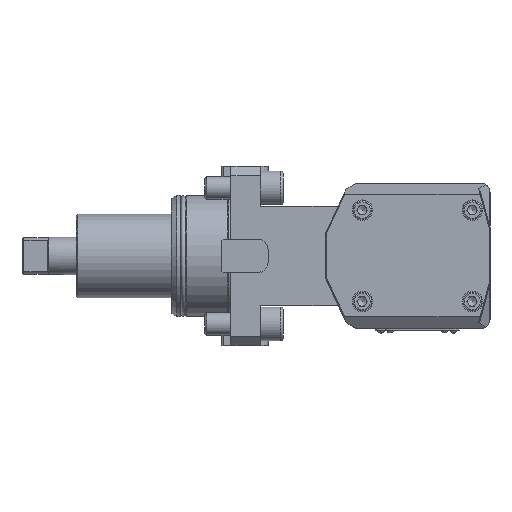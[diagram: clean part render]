
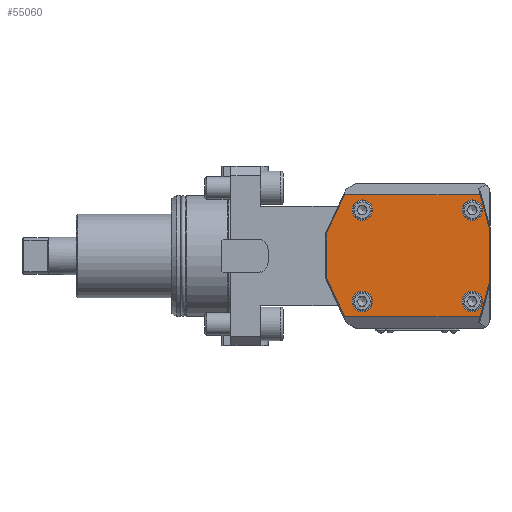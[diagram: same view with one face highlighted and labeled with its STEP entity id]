
A CAD part, top view. The second image highlights one B-rep face of the part: STEP entity #55060.
In plain terms, the highlighted planar face has unit normal (0, 0, 1).
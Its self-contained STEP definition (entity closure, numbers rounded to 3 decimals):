
#24205=VECTOR('',#37380,1.);
#24206=VECTOR('',#37381,1.);
#24207=VECTOR('',#37382,1.);
#24208=VECTOR('',#37383,1.);
#24209=VECTOR('',#37384,1.);
#24210=VECTOR('',#37385,1.);
#24211=VECTOR('',#37386,1.);
#24212=VECTOR('',#37387,1.);
#25415=LINE('',#41386,#24205);
#25416=LINE('',#41388,#24206);
#25417=LINE('',#41390,#24207);
#25418=LINE('',#41392,#24208);
#25419=LINE('',#41394,#24209);
#25420=LINE('',#41396,#24210);
#25421=LINE('',#41398,#24211);
#25422=LINE('',#41399,#24212);
#26625=PLANE('',#53442);
#27166=ORIENTED_EDGE('',*,*,#33112,.F.);
#27167=ORIENTED_EDGE('',*,*,#33113,.F.);
#27168=ORIENTED_EDGE('',*,*,#33114,.F.);
#27169=ORIENTED_EDGE('',*,*,#33115,.F.);
#27170=ORIENTED_EDGE('',*,*,#33116,.F.);
#27171=ORIENTED_EDGE('',*,*,#33117,.F.);
#27172=ORIENTED_EDGE('',*,*,#33118,.F.);
#27173=ORIENTED_EDGE('',*,*,#33119,.F.);
#27174=ORIENTED_EDGE('',*,*,#33110,.F.);
#27175=ORIENTED_EDGE('',*,*,#33120,.F.);
#27176=ORIENTED_EDGE('',*,*,#33121,.F.);
#27177=ORIENTED_EDGE('',*,*,#33122,.F.);
#31184=CIRCLE('',#53440,5.5);
#31186=CIRCLE('',#53443,5.5);
#31187=CIRCLE('',#53444,5.5);
#31188=CIRCLE('',#53445,5.5);
#31719=VERTEX_POINT('',#41379);
#31721=VERTEX_POINT('',#41384);
#31722=VERTEX_POINT('',#41385);
#31723=VERTEX_POINT('',#41387);
#31724=VERTEX_POINT('',#41389);
#31725=VERTEX_POINT('',#41391);
#31726=VERTEX_POINT('',#41393);
#31727=VERTEX_POINT('',#41395);
#31728=VERTEX_POINT('',#41397);
#31729=VERTEX_POINT('',#41400);
#31730=VERTEX_POINT('',#41402);
#31731=VERTEX_POINT('',#41404);
#33110=EDGE_CURVE('',#31719,#31719,#31184,.T.);
#33112=EDGE_CURVE('',#31721,#31722,#25415,.T.);
#33113=EDGE_CURVE('',#31723,#31721,#25416,.T.);
#33114=EDGE_CURVE('',#31724,#31723,#25417,.T.);
#33115=EDGE_CURVE('',#31725,#31724,#25418,.T.);
#33116=EDGE_CURVE('',#31726,#31725,#25419,.T.);
#33117=EDGE_CURVE('',#31727,#31726,#25420,.T.);
#33118=EDGE_CURVE('',#31728,#31727,#25421,.T.);
#33119=EDGE_CURVE('',#31722,#31728,#25422,.T.);
#33120=EDGE_CURVE('',#31729,#31729,#31186,.T.);
#33121=EDGE_CURVE('',#31730,#31730,#31187,.T.);
#33122=EDGE_CURVE('',#31731,#31731,#31188,.T.);
#35122=EDGE_LOOP('',(#27166,#27167,#27168,#27169,#27170,#27171,#27172,#27173));
#35123=EDGE_LOOP('',(#27174));
#35124=EDGE_LOOP('',(#27175));
#35125=EDGE_LOOP('',(#27176));
#35126=EDGE_LOOP('',(#27177));
#36241=FACE_BOUND('',#35122,.T.);
#36242=FACE_BOUND('',#35123,.T.);
#36243=FACE_BOUND('',#35124,.T.);
#36244=FACE_BOUND('',#35125,.T.);
#36245=FACE_BOUND('',#35126,.T.);
#37374=DIRECTION('',(0.,0.,1.));
#37375=DIRECTION('',(5.5,0.,0.));
#37378=DIRECTION('',(0.,0.,1.));
#37379=DIRECTION('',(0.,-1.,0.));
#37380=DIRECTION('',(72.709,0.,0.));
#37381=DIRECTION('',(9.524,20.425,0.));
#37382=DIRECTION('',(0.,24.599,0.));
#37383=DIRECTION('',(-9.524,20.425,0.));
#37384=DIRECTION('',(-72.709,0.,0.));
#37385=DIRECTION('',(-4.767,-17.79,0.));
#37386=DIRECTION('',(0.,-29.868,0.));
#37387=DIRECTION('',(4.767,-17.79,0.));
#37388=DIRECTION('',(0.,0.,1.));
#37389=DIRECTION('',(5.5,0.,0.));
#37390=DIRECTION('',(0.,0.,1.));
#37391=DIRECTION('',(5.5,0.,0.));
#37392=DIRECTION('',(0.,0.,1.));
#37393=DIRECTION('',(5.5,0.,0.));
#41379=CARTESIAN_POINT('',(450.812,-229.369,81.634));
#41380=CARTESIAN_POINT('',(445.312,-229.369,81.634));
#41383=CARTESIAN_POINT('',(454.812,-219.869,81.634));
#41384=CARTESIAN_POINT('',(376.836,-172.145,81.634));
#41385=CARTESIAN_POINT('',(449.545,-172.145,81.634));
#41386=CARTESIAN_POINT('',(376.836,-172.145,81.634));
#41387=CARTESIAN_POINT('',(367.312,-192.57,81.634));
#41388=CARTESIAN_POINT('',(367.312,-192.57,81.634));
#41389=CARTESIAN_POINT('',(367.312,-217.169,81.634));
#41390=CARTESIAN_POINT('',(367.312,-217.169,81.634));
#41391=CARTESIAN_POINT('',(376.836,-237.593,81.634));
#41392=CARTESIAN_POINT('',(376.836,-237.593,81.634));
#41393=CARTESIAN_POINT('',(449.545,-237.593,81.634));
#41394=CARTESIAN_POINT('',(449.545,-237.593,81.634));
#41395=CARTESIAN_POINT('',(454.312,-219.803,81.634));
#41396=CARTESIAN_POINT('',(454.312,-219.803,81.634));
#41397=CARTESIAN_POINT('',(454.312,-189.935,81.634));
#41398=CARTESIAN_POINT('',(454.312,-189.935,81.634));
#41399=CARTESIAN_POINT('',(449.545,-172.145,81.634));
#41400=CARTESIAN_POINT('',(450.812,-180.369,81.634));
#41401=CARTESIAN_POINT('',(445.312,-180.369,81.634));
#41402=CARTESIAN_POINT('',(391.812,-229.369,81.634));
#41403=CARTESIAN_POINT('',(386.312,-229.369,81.634));
#41404=CARTESIAN_POINT('',(391.812,-180.369,81.634));
#41405=CARTESIAN_POINT('',(386.312,-180.369,81.634));
#53440=AXIS2_PLACEMENT_3D('',#41380,#37374,#37375);
#53442=AXIS2_PLACEMENT_3D('',#41383,#37378,#37379);
#53443=AXIS2_PLACEMENT_3D('',#41401,#37388,#37389);
#53444=AXIS2_PLACEMENT_3D('',#41403,#37390,#37391);
#53445=AXIS2_PLACEMENT_3D('',#41405,#37392,#37393);
#55060=ADVANCED_FACE('',(#36241,#36242,#36243,#36244,#36245),#26625,.T.);
